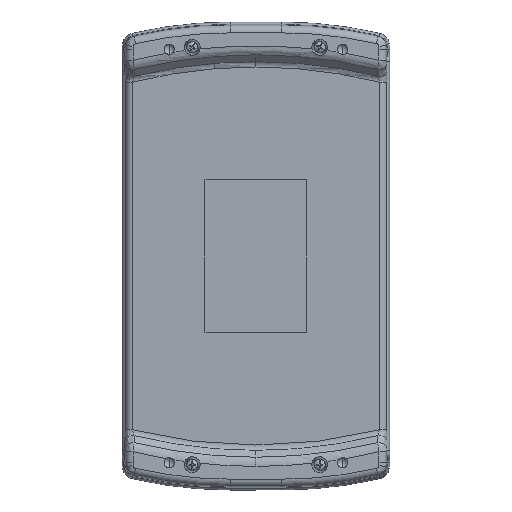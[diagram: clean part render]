
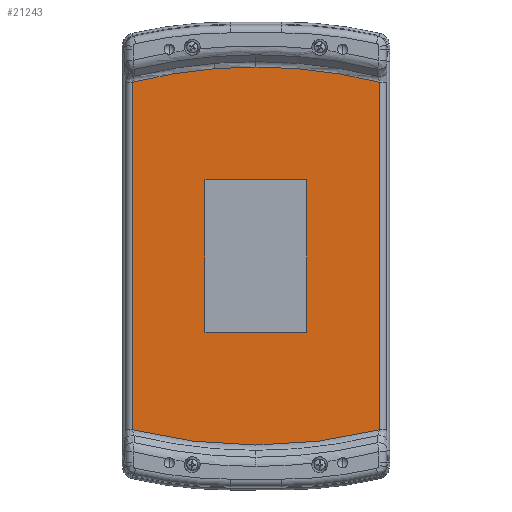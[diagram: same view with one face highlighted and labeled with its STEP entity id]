
A CAD part, front view. The second image highlights one B-rep face of the part: STEP entity #21243.
In plain terms, the highlighted planar face has unit normal (0, -1, 0).
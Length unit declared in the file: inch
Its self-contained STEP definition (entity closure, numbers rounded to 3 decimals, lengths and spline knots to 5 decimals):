
#29 = AXIS2_PLACEMENT_3D ( 'NONE', #38274, #20578, #2851 ) ;
#179 = EDGE_CURVE ( 'NONE', #24151, #23327, #17962, .T. ) ;
#388 = CARTESIAN_POINT ( 'NONE',  ( 2.42094, -0.55, 3.40848 ) ) ;
#515 = LINE ( 'NONE', #2809, #15379 ) ;
#847 = EDGE_CURVE ( 'NONE', #4305, #35045, #25728, .T. ) ;
#850 = CARTESIAN_POINT ( 'NONE',  ( 0., -0.55, 3.70787 ) ) ;
#1167 = EDGE_LOOP ( 'NONE', ( #36566, #31497, #20232, #7803, #4585 ) ) ;
#1553 = DIRECTION ( 'NONE',  ( 0., 0., 1. ) ) ;
#2221 = ORIENTED_EDGE ( 'NONE', *, *, #847, .F. ) ;
#2809 = CARTESIAN_POINT ( 'NONE',  ( 1., -0.55, -1.5 ) ) ;
#2851 = DIRECTION ( 'NONE',  ( 0., 0., 1. ) ) ;
#3230 = AXIS2_PLACEMENT_3D ( 'NONE', #35400, #17721, #38371 ) ;
#3442 = CIRCLE ( 'NONE', #29, 9.93787 ) ;
#3818 = VERTEX_POINT ( 'NONE', #850 ) ;
#4060 = EDGE_CURVE ( 'NONE', #35045, #24151, #36661, .T. ) ;
#4305 = VERTEX_POINT ( 'NONE', #15981 ) ;
#4417 = AXIS2_PLACEMENT_3D ( 'NONE', #36979, #19290, #1553 ) ;
#4585 = ORIENTED_EDGE ( 'NONE', *, *, #22092, .T. ) ;
#4860 = EDGE_CURVE ( 'NONE', #23327, #4305, #515, .T. ) ;
#4896 = EDGE_LOOP ( 'NONE', ( #20678, #2221, #35008, #31721 ) ) ;
#5256 = CARTESIAN_POINT ( 'NONE',  ( -1., -0.55, 1.5 ) ) ;
#5301 = DIRECTION ( 'NONE',  ( 0., 0., -1. ) ) ;
#5894 = DIRECTION ( 'NONE',  ( -1., 0., 0. ) ) ;
#7455 = FACE_OUTER_BOUND ( 'NONE', #1167, .T. ) ;
#7575 = CARTESIAN_POINT ( 'NONE',  ( -2.42094, -0.55, -3.40848 ) ) ;
#7803 = ORIENTED_EDGE ( 'NONE', *, *, #32257, .T. ) ;
#9553 = VERTEX_POINT ( 'NONE', #34893 ) ;
#10098 = VECTOR ( 'NONE', #5301, 39.37008 ) ;
#10314 = LINE ( 'NONE', #10363, #12181 ) ;
#10363 = CARTESIAN_POINT ( 'NONE',  ( -2.42094, -0.55, -3.37093 ) ) ;
#12181 = VECTOR ( 'NONE', #30998, 39.37008 ) ;
#12200 = CARTESIAN_POINT ( 'NONE',  ( -1., -0.55, -1.5 ) ) ;
#12860 = DIRECTION ( 'NONE',  ( 0., 0., 1. ) ) ;
#13859 = DIRECTION ( 'NONE',  ( 0., 1., 0. ) ) ;
#15334 = FACE_BOUND ( 'NONE', #4896, .T. ) ;
#15379 = VECTOR ( 'NONE', #20537, 39.37008 ) ;
#15852 = CARTESIAN_POINT ( 'NONE',  ( -1., -0.55, 1.5 ) ) ;
#15981 = CARTESIAN_POINT ( 'NONE',  ( 1., -0.55, -1.5 ) ) ;
#17448 = CIRCLE ( 'NONE', #3230, 9.93787 ) ;
#17520 = VERTEX_POINT ( 'NONE', #7575 ) ;
#17721 = DIRECTION ( 'NONE',  ( 0., -1., 0. ) ) ;
#17962 = LINE ( 'NONE', #5256, #10098 ) ;
#18807 = DIRECTION ( 'NONE',  ( 0., 0., 1. ) ) ;
#18837 = CIRCLE ( 'NONE', #4417, 9.93787 ) ;
#19290 = DIRECTION ( 'NONE',  ( 0., -1., 0. ) ) ;
#20232 = ORIENTED_EDGE ( 'NONE', *, *, #36790, .T. ) ;
#20537 = DIRECTION ( 'NONE',  ( 1., 0., 0. ) ) ;
#20578 = DIRECTION ( 'NONE',  ( 0., -1., 0. ) ) ;
#20678 = ORIENTED_EDGE ( 'NONE', *, *, #4060, .F. ) ;
#21243 = ADVANCED_FACE ( 'NONE', ( #15334, #7455 ), #28532, .F. ) ;
#22092 = EDGE_CURVE ( 'NONE', #35228, #27281, #28191, .T. ) ;
#23327 = VERTEX_POINT ( 'NONE', #12200 ) ;
#24151 = VERTEX_POINT ( 'NONE', #15852 ) ;
#24733 = CARTESIAN_POINT ( 'NONE',  ( 1., -0.55, 1.5 ) ) ;
#24893 = EDGE_CURVE ( 'NONE', #27281, #3818, #17448, .T. ) ;
#25530 = CARTESIAN_POINT ( 'NONE',  ( -1.935, -0.55, 4.05 ) ) ;
#25728 = LINE ( 'NONE', #24733, #31757 ) ;
#27251 = VECTOR ( 'NONE', #12860, 39.37008 ) ;
#27281 = VERTEX_POINT ( 'NONE', #388 ) ;
#27468 = AXIS2_PLACEMENT_3D ( 'NONE', #25530, #13859, #34487 ) ;
#28191 = LINE ( 'NONE', #33479, #27251 ) ;
#28532 = PLANE ( 'NONE',  #27468 ) ;
#28786 = VECTOR ( 'NONE', #5894, 39.37008 ) ;
#30020 = CARTESIAN_POINT ( 'NONE',  ( 1., -0.55, 1.5 ) ) ;
#30998 = DIRECTION ( 'NONE',  ( 0., 0., -1. ) ) ;
#31497 = ORIENTED_EDGE ( 'NONE', *, *, #35432, .T. ) ;
#31721 = ORIENTED_EDGE ( 'NONE', *, *, #179, .F. ) ;
#31757 = VECTOR ( 'NONE', #18807, 39.37008 ) ;
#32257 = EDGE_CURVE ( 'NONE', #17520, #35228, #18837, .T. ) ;
#33479 = CARTESIAN_POINT ( 'NONE',  ( 2.42094, -0.55, 3.37093 ) ) ;
#34036 = CARTESIAN_POINT ( 'NONE',  ( 2.42094, -0.55, -3.40848 ) ) ;
#34487 = DIRECTION ( 'NONE',  ( 0., 0., 1. ) ) ;
#34893 = CARTESIAN_POINT ( 'NONE',  ( -2.42094, -0.55, 3.40848 ) ) ;
#35008 = ORIENTED_EDGE ( 'NONE', *, *, #4860, .F. ) ;
#35045 = VERTEX_POINT ( 'NONE', #30020 ) ;
#35228 = VERTEX_POINT ( 'NONE', #34036 ) ;
#35400 = CARTESIAN_POINT ( 'NONE',  ( 0., -0.55, -6.23 ) ) ;
#35432 = EDGE_CURVE ( 'NONE', #3818, #9553, #3442, .T. ) ;
#36566 = ORIENTED_EDGE ( 'NONE', *, *, #24893, .T. ) ;
#36661 = LINE ( 'NONE', #38323, #28786 ) ;
#36790 = EDGE_CURVE ( 'NONE', #9553, #17520, #10314, .T. ) ;
#36979 = CARTESIAN_POINT ( 'NONE',  ( 0., -0.55, 6.23 ) ) ;
#38274 = CARTESIAN_POINT ( 'NONE',  ( 0., -0.55, -6.23 ) ) ;
#38323 = CARTESIAN_POINT ( 'NONE',  ( 1., -0.55, 1.5 ) ) ;
#38371 = DIRECTION ( 'NONE',  ( 0., 0., 1. ) ) ;
